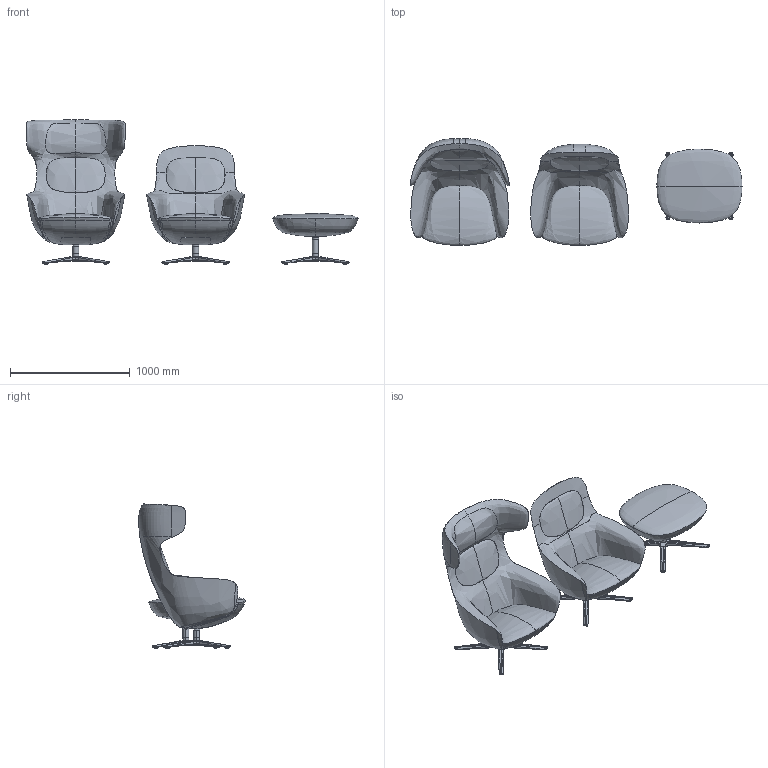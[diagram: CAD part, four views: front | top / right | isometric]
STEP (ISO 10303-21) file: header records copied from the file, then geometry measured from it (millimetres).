
FILE_DESCRIPTION(/* description */ (''),/* implementation_level */ '2;1');
FILE_NAME(/* name */ 'TRUE_Ahkka_3D',/* time_stamp */ '2026-04-13T12:11:30+02:00',/* author */ (''),/* organization */ (''),/* preprocessor_version */ 'ST-DEVELOPER v16.5',/* originating_system */ '',/* authorisation */ '');
FILE_SCHEMA (('CONFIG_CONTROL_DESIGN'));
Products named in the file (1): Document
Bounding box: 2770.05 x 890.92 x 1202.41 mm (x, y, z)
Volume: 349655886.8 mm3; surface area: 7764474.2 mm2
Topology: 23 solids, 23 shells, 2746 faces, 6412 edges, 3712 vertices
Faces by surface type: bspline 2217, cylinder 292, plane 237
Entity records: 374561 total; most frequent: CARTESIAN_POINT 337774, ORIENTED_EDGE 12760, EDGE_CURVE 6380, VERTEX_POINT 3711, B_SPLINE_CURVE_WITH_KNOTS 3597, EDGE_LOOP 2783, ADVANCED_FACE 2745, FACE_OUTER_BOUND 2745
